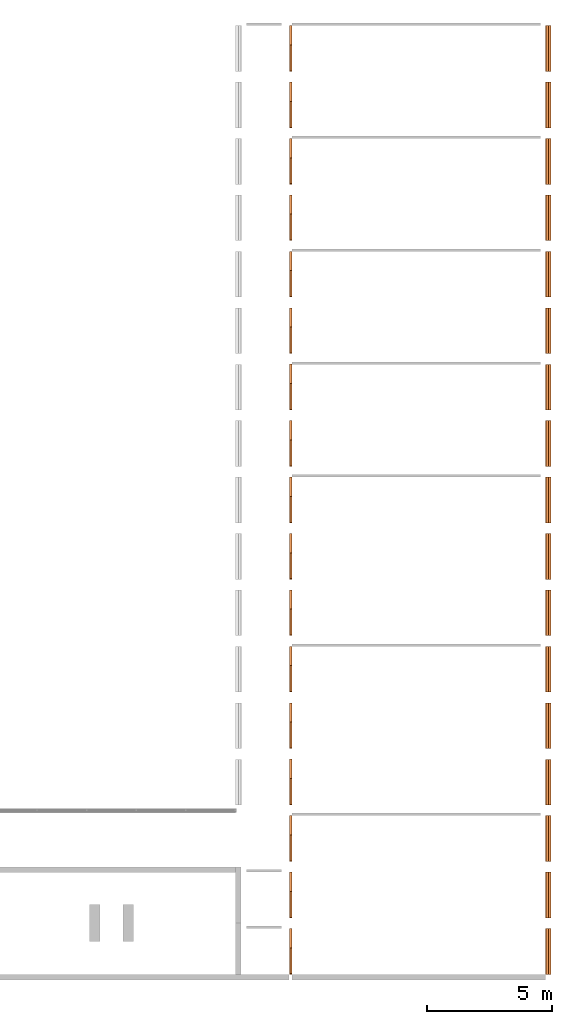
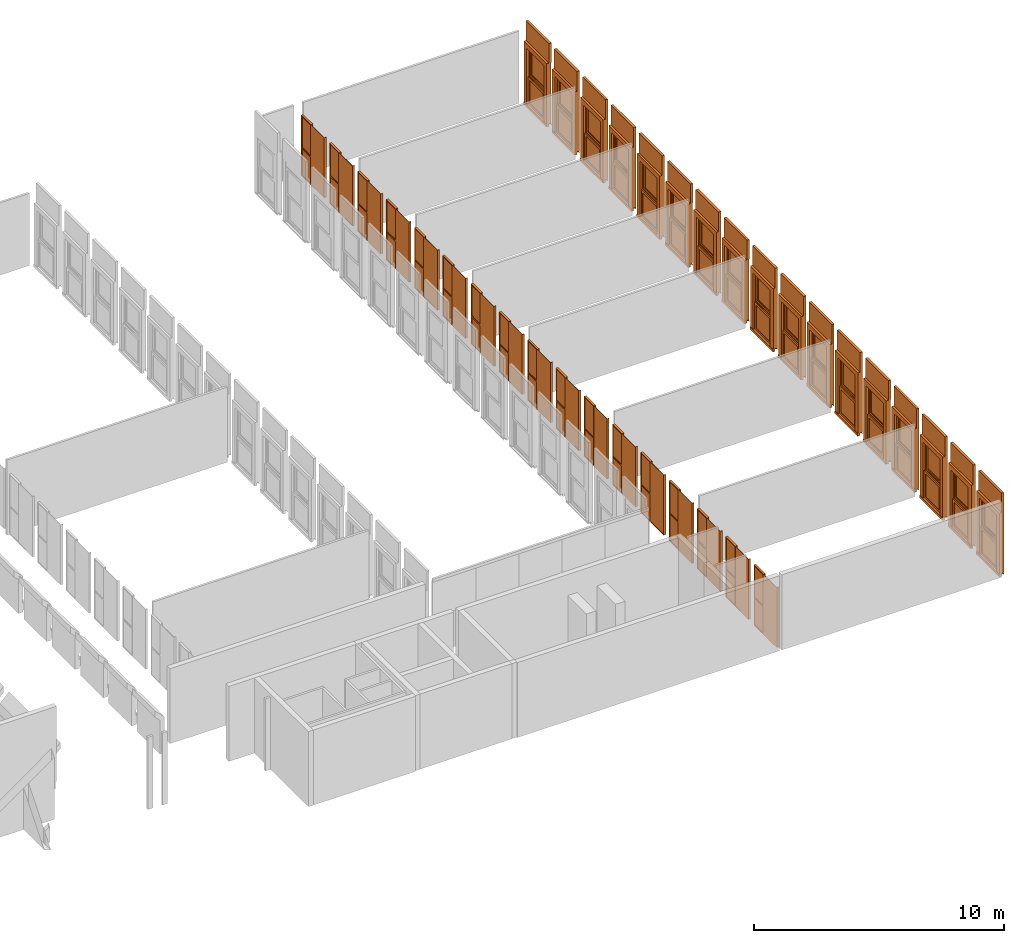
# One storey, part 13 of 13: 34 proxies.
"""IFC2X3 building model written with IfcOpenShell, lengths in millimetres."""

from ifc_helpers import new_model, entity, si_unit, converted_unit, derived_unit, direction, frame, frame_2d, origin, origin_2d_with_axis, place, context, subcontext, project, spatial, polyline, rectangle, outline, extrude, source, transform, mapped, material, material_list, type_object, type_shapes, element, save


model = new_model("IFC2X3")

# Units and contexts
model_context = context("Model", 3, precision=0.01, world=origin(), true_north=direction((6.12303176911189e-17, 1.0)))
body_context = subcontext(model_context, "Body", "Model", "MODEL_VIEW")
ifc_project = project(units=[si_unit("LENGTHUNIT", "METRE", prefix="MILLI"), si_unit("AREAUNIT", "SQUARE_METRE"), si_unit("VOLUMEUNIT", "CUBIC_METRE"), converted_unit("PLANEANGLEUNIT", "DEGREE", entity("IfcRatioMeasure", 0.0174532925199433), si_unit("PLANEANGLEUNIT", "RADIAN"), dimensions=[0, 0, 0, 0, 0, 0, 0]), si_unit("MASSUNIT", "GRAM", prefix="KILO"), derived_unit("MASSDENSITYUNIT", [(si_unit("MASSUNIT", "GRAM", prefix="KILO"), 1), (si_unit("LENGTHUNIT", "METRE"), -3)]), derived_unit("MOMENTOFINERTIAUNIT", [(si_unit("LENGTHUNIT", "METRE"), 4)]), si_unit("TIMEUNIT", "SECOND"), si_unit("FREQUENCYUNIT", "HERTZ"), si_unit("THERMODYNAMICTEMPERATUREUNIT", "DEGREE_CELSIUS"), derived_unit("THERMALTRANSMITTANCEUNIT", [(si_unit("MASSUNIT", "GRAM", prefix="KILO"), 1), (si_unit("THERMODYNAMICTEMPERATUREUNIT", "KELVIN"), -1), (si_unit("TIMEUNIT", "SECOND"), -3)]), derived_unit("VOLUMETRICFLOWRATEUNIT", [(si_unit("LENGTHUNIT", "METRE"), 3), (si_unit("TIMEUNIT", "SECOND"), -1)]), si_unit("ELECTRICCURRENTUNIT", "AMPERE"), si_unit("ELECTRICVOLTAGEUNIT", "VOLT"), si_unit("POWERUNIT", "WATT"), si_unit("FORCEUNIT", "NEWTON", prefix="KILO"), si_unit("ILLUMINANCEUNIT", "LUX"), si_unit("LUMINOUSFLUXUNIT", "LUMEN"), si_unit("LUMINOUSINTENSITYUNIT", "CANDELA"), derived_unit("USERDEFINED", [(si_unit("MASSUNIT", "GRAM", prefix="KILO"), -1), (si_unit("LENGTHUNIT", "METRE"), -2), (si_unit("TIMEUNIT", "SECOND"), 3), (si_unit("LUMINOUSFLUXUNIT", "LUMEN"), 1)]), derived_unit("LINEARVELOCITYUNIT", [(si_unit("LENGTHUNIT", "METRE"), 1), (si_unit("TIMEUNIT", "SECOND"), -1)]), si_unit("PRESSUREUNIT", "PASCAL"), derived_unit("USERDEFINED", [(si_unit("LENGTHUNIT", "METRE"), -2), (si_unit("MASSUNIT", "GRAM", prefix="KILO"), 1), (si_unit("TIMEUNIT", "SECOND"), -2)]), derived_unit("LINEARFORCEUNIT", [(si_unit("MASSUNIT", "GRAM", prefix="KILO"), 1), (si_unit("LENGTHUNIT", "METRE"), 1), (si_unit("TIMEUNIT", "SECOND"), -2), (si_unit("LENGTHUNIT", "METRE"), -1)]), derived_unit("PLANARFORCEUNIT", [(si_unit("MASSUNIT", "GRAM", prefix="KILO"), 1), (si_unit("LENGTHUNIT", "METRE"), 1), (si_unit("TIMEUNIT", "SECOND"), -2), (si_unit("LENGTHUNIT", "METRE"), -2)])], contexts=[model_context])

# Site, building, storey
site_placement = place(None, frame((10627.5135316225, 21939.0796949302, 0.0)))
site = spatial("IfcSite", under=ifc_project, at=site_placement, Name="Default", CompositionType="ELEMENT")
building_placement = place(site_placement, origin())
building = spatial("IfcBuilding", under=site, at=building_placement, CompositionType="ELEMENT")
storey_placement = place(building_placement, frame((0.0, 0.0, 7320.0)))
storey = spatial("IfcBuildingStorey", under=building, at=storey_placement, Name="R+2", CompositionType="ELEMENT", Elevation=7320.0)

# Proxies
ifc_material_1 = material(Name="PVC, Flexible")
ifc_material_2 = material(Name="Glass")
ifc_material_list_1 = material_list([ifc_material_1, ifc_material_2])
building_element_proxy_type_1 = type_object("IfcBuildingElementProxyType", Name="FENETRE.dwg:Fenetre ext 296+95", PredefinedType="NOTDEFINED", material=ifc_material_1)
shared_shape_1 = source(origin(), body_context, "Body", "SweptSolid", [
    extrude(rectangle(XDim=112.500043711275, YDim=1829.99999999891, at=origin_2d_with_axis()), frame((-10.4189092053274, -56.2500218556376, 2960.0), z_axis=(0.0, 0.0, 1.0), x_axis=(0.0, 1.0, 0.0)), (0.0, 0.0, 1.0), 949.999999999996),
    extrude(outline(polyline([(27.5499763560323, -64.4170494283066), (47.5499763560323, -64.4170494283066), (47.5499763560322, -59.4170494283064), (28.7622905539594, -59.4170494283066), (7.54997635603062, 46.6946996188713), (-42.4500236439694, 46.6946996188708), (-42.4500236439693, 32.9446996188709), (-39.9500236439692, 32.9446996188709), (-39.9500236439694, 44.1946996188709), (5.83789859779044, 44.1946996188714), (27.5499763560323, -64.4170494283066)])), frame((-925.418909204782, -66.917049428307, -47.5499763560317), z_axis=(1.0, 0.0, 0.0), x_axis=(0.0, 0.0, 1.0)), (0.0, 0.0, 1.0), 1829.99999999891),
    extrude(outline(polyline([(-54.506636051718, -66.1431859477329), (58.0333803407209, -66.1431859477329), (54.4666704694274, 67.6422744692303), (-57.9934147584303, 64.6440974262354), (-54.506636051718, -66.1431859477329)])), frame((-925.418909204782, 56.2500218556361, -63.833312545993), z_axis=(1.0, 0.0, 0.0), x_axis=(0.0, -0.999644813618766, 0.0266504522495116)), (0.0, 0.0, 1.0), 1829.99999999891),
    extrude(outline(polyline([(-97.0007159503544, -55.5555555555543), (5.85738417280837, -55.5555555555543), (95.357341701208, -55.5555555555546), (95.357341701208, -45.5555555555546), (105.357341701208, -45.5555555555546), (105.357341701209, 174.444444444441), (-106.642659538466, 174.444444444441), (-106.642659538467, -45.5555555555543), (-97.0007159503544, -45.5555555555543), (-97.0007159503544, -55.5555555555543)])), frame((849.025535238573, -5.85738417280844, 0.0), z_axis=(0.0, 0.0, 1.0), x_axis=(0.0, 1.0, 0.0)), (0.0, 0.0, 1.0), 2960.0),
    extrude(rectangle(XDim=1369.99999999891, YDim=199.499957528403, at=origin_2d_with_axis()), frame((-10.4189092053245, -0.250021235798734, 2730.0), z_axis=(0.0, 0.0, 1.0), x_axis=(-1.0, 0.0, 0.0)), (0.0, 0.0, 1.0), 230.000000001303),
    extrude(outline(polyline([(-55.5555555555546, 97.0007159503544), (-55.5555555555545, -5.85738417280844), (-55.5555555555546, -95.357341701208), (-45.5555555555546, -95.3573417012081), (-45.5555555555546, -105.357341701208), (174.444444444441, -105.357341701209), (174.444444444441, 106.642659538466), (-45.5555555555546, 106.642659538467), (-45.5555555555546, 97.0007159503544), (-55.5555555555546, 97.0007159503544)])), frame((-869.863353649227, -5.85738417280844, 0.0), z_axis=(0.0, 0.0, -1.0), x_axis=(1.0, 0.0, 0.0)), (0.0, 0.0, -1.0), 2960.0),
    extrude(rectangle(XDim=1079.99999999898, YDim=1.0, at=origin_2d_with_axis()), frame((-10.4189092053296, 19.5, 130.0), z_axis=(0.0, 0.0, 1.0), x_axis=(-1.0, 0.0, 0.0)), (0.0, 0.0, 1.0), 1120.00000000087),
    extrude(rectangle(XDim=1079.99999999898, YDim=1.0, at=origin_2d_with_axis()), frame((-10.4189092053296, 30.5, 130.0), z_axis=(0.0, 0.0, 1.0), x_axis=(-1.0, 0.0, 0.0)), (0.0, 0.0, 1.0), 1120.00000000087),
    extrude(rectangle(XDim=1079.99999999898, YDim=1.0, at=frame_2d((0.0, 4.21884749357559e-15), x_axis=(1.0, 0.0))), frame((-10.4189092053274, -69.5, 1465.0), z_axis=(0.0, 0.0, 1.0), x_axis=(-1.0, 0.0, 0.0)), (0.0, 0.0, 1.0), 1120.0),
    extrude(rectangle(XDim=1079.99999999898, YDim=0.999999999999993, at=frame_2d((0.0, -8.46545056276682e-15), x_axis=(1.0, 0.0))), frame((-10.4189092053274, -80.5, 1465.0), z_axis=(0.0, 0.0, 1.0), x_axis=(-1.0, 0.0, 0.0)), (0.0, 0.0, 1.0), 1120.00000000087),
    extrude(outline(polyline([(-685.0, -1365.0), (0.0, -1365.0), (685.0, -1365.0), (685.0, 1365.0), (0.0, 1365.0), (-685.0, 1365.0), (-685.0, -1365.0)]), holes=[polyline([(-640.0, -1320.0), (-640.0, -45.0), (0.0, -45.0), (640.0, -45.0), (640.0, -1320.0), (0.0, -1320.0), (-640.0, -1320.0)]), polyline([(-640.0, 40.0), (-640.0, 1315.0), (0.0, 1315.0), (640.0, 1315.0), (640.0, 40.0), (0.0, 40.0), (-640.0, 40.0)])]), frame((-10.4189092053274, -50.0, 1365.0), z_axis=(0.0, 1.0, 0.0), x_axis=(1.0, 0.0, 0.0)), (0.0, 0.0, 1.0), 50.0),
    extrude(outline(polyline([(-655.0, -667.500000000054), (655.0, -667.500000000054), (655.0, 667.500000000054), (-655.0, 667.500000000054), (-655.0, -667.500000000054)]), holes=[polyline([(-540.0, 552.500000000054), (540.0, 552.500000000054), (540.0, -567.500000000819), (-540.0, -567.500000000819), (-540.0, 552.500000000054)])]), frame((-10.4189092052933, 0.0, 697.500000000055), z_axis=(0.0, 1.0, 0.0), x_axis=(-1.0, 0.0, 0.0)), (0.0, 0.0, 1.0), 50.0),
    extrude(outline(polyline([(-655.0, -667.500000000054), (655.0, -667.500000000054), (655.0, 667.500000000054), (-655.0, 667.500000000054), (-655.0, -667.500000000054)]), holes=[polyline([(-540.0, 552.500000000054), (540.0, 552.500000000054), (540.0, -567.500000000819), (-540.0, -567.500000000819), (-540.0, 552.500000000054)])]), frame((-10.4189092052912, -100.0, 2032.50000000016), z_axis=(0.0, 1.0, 0.0), x_axis=(-1.0, 0.0, 0.0)), (0.0, 0.0, 1.0), 50.0),
])
type_shapes(building_element_proxy_type_1, [shared_shape_1])
proxy_1_placement = place(storey_placement, frame((63883.8747193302, 15361.3392142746, 0.0), z_axis=(0.0, 0.0, 1.0), x_axis=(0.0, 1.0, 0.0)))
element("IfcBuildingElementProxy", 1, at=proxy_1_placement, inside=storey, type_object=building_element_proxy_type_1, material=ifc_material_list_1, Name="FENETRE.dwg:Fenetre ext 296+95", ObjectType="FENETRE.dwg:Fenetre ext 296+95", context=body_context, shape_type="MappedRepresentation", body=[
    mapped(shared_shape_1, transform((0.0, 0.0, 0.0), scale=1.0)),
])
ifc_material_list_2 = material_list([ifc_material_1, ifc_material_2])
proxy_2_placement = place(storey_placement, frame((63883.8747193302, 13101.3392142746, 0.0), z_axis=(0.0, 0.0, 1.0), x_axis=(0.0, 1.0, 0.0)))
element("IfcBuildingElementProxy", 2, at=proxy_2_placement, inside=storey, type_object=building_element_proxy_type_1, material=ifc_material_list_2, Name="FENETRE.dwg:Fenetre ext 296+95", ObjectType="FENETRE.dwg:Fenetre ext 296+95", context=body_context, shape_type="MappedRepresentation", body=[
    mapped(shared_shape_1, transform((0.0, 0.0, 0.0), scale=1.0)),
])
ifc_material_list_3 = material_list([ifc_material_1, ifc_material_2])
proxy_3_placement = place(storey_placement, frame((63883.8747193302, 10841.3392142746, 0.0), z_axis=(0.0, 0.0, 1.0), x_axis=(0.0, 1.0, 0.0)))
element("IfcBuildingElementProxy", 3, at=proxy_3_placement, inside=storey, type_object=building_element_proxy_type_1, material=ifc_material_list_3, Name="FENETRE.dwg:Fenetre ext 296+95", ObjectType="FENETRE.dwg:Fenetre ext 296+95", context=body_context, shape_type="MappedRepresentation", body=[
    mapped(shared_shape_1, transform((0.0, 0.0, 0.0), scale=1.0)),
])
ifc_material_list_4 = material_list([ifc_material_1, ifc_material_2])
proxy_4_placement = place(storey_placement, frame((63883.8747193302, 8581.33921427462, 0.0), z_axis=(0.0, 0.0, 1.0), x_axis=(0.0, 1.0, 0.0)))
element("IfcBuildingElementProxy", 4, at=proxy_4_placement, inside=storey, type_object=building_element_proxy_type_1, material=ifc_material_list_4, Name="FENETRE.dwg:Fenetre ext 296+95", ObjectType="FENETRE.dwg:Fenetre ext 296+95", context=body_context, shape_type="MappedRepresentation", body=[
    mapped(shared_shape_1, transform((0.0, 0.0, 0.0), scale=1.0)),
])
ifc_material_list_5 = material_list([ifc_material_1, ifc_material_2])
proxy_5_placement = place(storey_placement, frame((63883.8747193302, 6321.33921427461, 0.0), z_axis=(0.0, 0.0, 1.0), x_axis=(0.0, 1.0, 0.0)))
element("IfcBuildingElementProxy", 5, at=proxy_5_placement, inside=storey, type_object=building_element_proxy_type_1, material=ifc_material_list_5, Name="FENETRE.dwg:Fenetre ext 296+95", ObjectType="FENETRE.dwg:Fenetre ext 296+95", context=body_context, shape_type="MappedRepresentation", body=[
    mapped(shared_shape_1, transform((0.0, 0.0, 0.0), scale=1.0)),
])
ifc_material_list_6 = material_list([ifc_material_1, ifc_material_2])
proxy_6_placement = place(storey_placement, frame((63883.8747193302, 4061.33921427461, 0.0), z_axis=(0.0, 0.0, 1.0), x_axis=(0.0, 1.0, 0.0)))
element("IfcBuildingElementProxy", 6, at=proxy_6_placement, inside=storey, type_object=building_element_proxy_type_1, material=ifc_material_list_6, Name="FENETRE.dwg:Fenetre ext 296+95", ObjectType="FENETRE.dwg:Fenetre ext 296+95", context=body_context, shape_type="MappedRepresentation", body=[
    mapped(shared_shape_1, transform((0.0, 0.0, 0.0), scale=1.0)),
])
ifc_material_list_7 = material_list([ifc_material_1, ifc_material_2])
proxy_7_placement = place(storey_placement, frame((63883.8747193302, 1801.33921427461, 0.0), z_axis=(0.0, 0.0, 1.0), x_axis=(0.0, 1.0, 0.0)))
element("IfcBuildingElementProxy", 7, at=proxy_7_placement, inside=storey, type_object=building_element_proxy_type_1, material=ifc_material_list_7, Name="FENETRE.dwg:Fenetre ext 296+95", ObjectType="FENETRE.dwg:Fenetre ext 296+95", context=body_context, shape_type="MappedRepresentation", body=[
    mapped(shared_shape_1, transform((0.0, 0.0, 0.0), scale=1.0)),
])
ifc_material_list_8 = material_list([ifc_material_1, ifc_material_2])
proxy_8_placement = place(storey_placement, frame((63883.8747193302, -458.660785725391, 0.0), z_axis=(0.0, 0.0, 1.0), x_axis=(0.0, 1.0, 0.0)))
element("IfcBuildingElementProxy", 8, at=proxy_8_placement, inside=storey, type_object=building_element_proxy_type_1, material=ifc_material_list_8, Name="FENETRE.dwg:Fenetre ext 296+95", ObjectType="FENETRE.dwg:Fenetre ext 296+95", context=body_context, shape_type="MappedRepresentation", body=[
    mapped(shared_shape_1, transform((0.0, 0.0, 0.0), scale=1.0)),
])
ifc_material_list_9 = material_list([ifc_material_1, ifc_material_2])
proxy_9_placement = place(storey_placement, frame((63883.8747193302, -2718.66078572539, 0.0), z_axis=(0.0, 0.0, 1.0), x_axis=(0.0, 1.0, 0.0)))
element("IfcBuildingElementProxy", 9, at=proxy_9_placement, inside=storey, type_object=building_element_proxy_type_1, material=ifc_material_list_9, Name="FENETRE.dwg:Fenetre ext 296+95", ObjectType="FENETRE.dwg:Fenetre ext 296+95", context=body_context, shape_type="MappedRepresentation", body=[
    mapped(shared_shape_1, transform((0.0, 0.0, 0.0), scale=1.0)),
])
ifc_material_list_10 = material_list([ifc_material_1, ifc_material_2])
proxy_10_placement = place(storey_placement, frame((63883.8747193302, -4978.66078572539, 0.0), z_axis=(0.0, 0.0, 1.0), x_axis=(0.0, 1.0, 0.0)))
element("IfcBuildingElementProxy", 10, at=proxy_10_placement, inside=storey, type_object=building_element_proxy_type_1, material=ifc_material_list_10, Name="FENETRE.dwg:Fenetre ext 296+95", ObjectType="FENETRE.dwg:Fenetre ext 296+95", context=body_context, shape_type="MappedRepresentation", body=[
    mapped(shared_shape_1, transform((0.0, 0.0, 0.0), scale=1.0)),
])
ifc_material_list_11 = material_list([ifc_material_1, ifc_material_2])
proxy_11_placement = place(storey_placement, frame((63883.8747193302, -7238.6607857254, 0.0), z_axis=(0.0, 0.0, 1.0), x_axis=(0.0, 1.0, 0.0)))
element("IfcBuildingElementProxy", 11, at=proxy_11_placement, inside=storey, type_object=building_element_proxy_type_1, material=ifc_material_list_11, Name="FENETRE.dwg:Fenetre ext 296+95", ObjectType="FENETRE.dwg:Fenetre ext 296+95", context=body_context, shape_type="MappedRepresentation", body=[
    mapped(shared_shape_1, transform((0.0, 0.0, 0.0), scale=1.0)),
])
ifc_material_list_12 = material_list([ifc_material_1, ifc_material_2])
proxy_12_placement = place(storey_placement, frame((63883.8747193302, -9498.6607857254, 0.0), z_axis=(0.0, 0.0, 1.0), x_axis=(0.0, 1.0, 0.0)))
element("IfcBuildingElementProxy", 12, at=proxy_12_placement, inside=storey, type_object=building_element_proxy_type_1, material=ifc_material_list_12, Name="FENETRE.dwg:Fenetre ext 296+95", ObjectType="FENETRE.dwg:Fenetre ext 296+95", context=body_context, shape_type="MappedRepresentation", body=[
    mapped(shared_shape_1, transform((0.0, 0.0, 0.0), scale=1.0)),
])
ifc_material_list_13 = material_list([ifc_material_1, ifc_material_2])
proxy_13_placement = place(storey_placement, frame((63883.8747193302, -11758.6607857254, 0.0), z_axis=(0.0, 0.0, 1.0), x_axis=(0.0, 1.0, 0.0)))
element("IfcBuildingElementProxy", 13, at=proxy_13_placement, inside=storey, type_object=building_element_proxy_type_1, material=ifc_material_list_13, Name="FENETRE.dwg:Fenetre ext 296+95", ObjectType="FENETRE.dwg:Fenetre ext 296+95", context=body_context, shape_type="MappedRepresentation", body=[
    mapped(shared_shape_1, transform((0.0, 0.0, 0.0), scale=1.0)),
])
ifc_material_list_14 = material_list([ifc_material_1, ifc_material_2])
proxy_14_placement = place(storey_placement, frame((63883.8747193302, -14018.6607857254, 0.0), z_axis=(0.0, 0.0, 1.0), x_axis=(0.0, 1.0, 0.0)))
element("IfcBuildingElementProxy", 14, at=proxy_14_placement, inside=storey, type_object=building_element_proxy_type_1, material=ifc_material_list_14, Name="FENETRE.dwg:Fenetre ext 296+95", ObjectType="FENETRE.dwg:Fenetre ext 296+95", context=body_context, shape_type="MappedRepresentation", body=[
    mapped(shared_shape_1, transform((0.0, 0.0, 0.0), scale=1.0)),
])
ifc_material_list_15 = material_list([ifc_material_1, ifc_material_2])
proxy_15_placement = place(storey_placement, frame((63883.8747193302, -16278.6607857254, 0.0), z_axis=(0.0, 0.0, 1.0), x_axis=(0.0, 1.0, 0.0)))
element("IfcBuildingElementProxy", 15, at=proxy_15_placement, inside=storey, type_object=building_element_proxy_type_1, material=ifc_material_list_15, Name="FENETRE.dwg:Fenetre ext 296+95", ObjectType="FENETRE.dwg:Fenetre ext 296+95", context=body_context, shape_type="MappedRepresentation", body=[
    mapped(shared_shape_1, transform((0.0, 0.0, 0.0), scale=1.0)),
])
ifc_material_list_16 = material_list([ifc_material_1, ifc_material_2])
proxy_16_placement = place(storey_placement, frame((63883.8747193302, -18538.6607857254, 0.0), z_axis=(0.0, 0.0, 1.0), x_axis=(0.0, 1.0, 0.0)))
element("IfcBuildingElementProxy", 16, at=proxy_16_placement, inside=storey, type_object=building_element_proxy_type_1, material=ifc_material_list_16, Name="FENETRE.dwg:Fenetre ext 296+95", ObjectType="FENETRE.dwg:Fenetre ext 296+95", context=body_context, shape_type="MappedRepresentation", body=[
    mapped(shared_shape_1, transform((0.0, 0.0, 0.0), scale=1.0)),
])
ifc_material_list_17 = material_list([ifc_material_1, ifc_material_2])
proxy_17_placement = place(storey_placement, frame((63883.8747193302, -20798.6607857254, 0.0), z_axis=(0.0, 0.0, 1.0), x_axis=(0.0, 1.0, 0.0)))
element("IfcBuildingElementProxy", 17, at=proxy_17_placement, inside=storey, type_object=building_element_proxy_type_1, material=ifc_material_list_17, Name="FENETRE.dwg:Fenetre ext 296+95", ObjectType="FENETRE.dwg:Fenetre ext 296+95", context=body_context, shape_type="MappedRepresentation", body=[
    mapped(shared_shape_1, transform((0.0, 0.0, 0.0), scale=1.0)),
])
ifc_material_3 = material(Name="Plywood, Sheathing")
ifc_material_list_18 = material_list([ifc_material_3, ifc_material_2])
building_element_proxy_type_2 = type_object("IfcBuildingElementProxyType", Name="Porte noire:Porte noire", PredefinedType="NOTDEFINED", material=ifc_material_3)
shared_shape_2 = source(origin(), body_context, "Body", "SweptSolid", [
    extrude(rectangle(XDim=23.0000000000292, YDim=100.0, at=frame_2d((-1.35891298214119e-13, 0.0), x_axis=(1.0, 0.0))), frame((-950.918997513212, 50.0, 8.73189890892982), z_axis=(0.0, 0.0, 1.0), x_axis=(-1.0, 0.0, 0.0)), (0.0, 0.0, 1.0), 2933.34951039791),
    extrude(rectangle(XDim=1038.0, YDim=19.0, at=frame_2d((0.0, 7.99360577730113e-15), x_axis=(1.0, 0.0))), frame((-420.418997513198, 87.5, 43.7318989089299), z_axis=(0.0, 0.0, 1.0), x_axis=(-1.0, 0.0, 0.0)), (0.0, 0.0, 1.0), 2898.5),
    extrude(rectangle(XDim=1775.0, YDim=100.0, at=origin_2d_with_axis()), frame((-51.9189975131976, 50.0, 8.73189890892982), z_axis=(0.0, 0.0, 1.0), x_axis=(-1.0, 0.0, 0.0)), (0.0, 0.0, 1.0), 35.0000000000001),
    extrude(rectangle(XDim=35.0000000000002, YDim=100.0, at=origin_2d_with_axis()), frame((853.081002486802, 50.0, 8.73189890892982), z_axis=(0.0, 0.0, 1.0), x_axis=(-1.0, 0.0, 0.0)), (0.0, 0.0, 1.0), 2898.5),
    extrude(rectangle(XDim=740.0, YDim=100.0, at=origin_2d_with_axis()), frame((500.581002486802, 50.0, 2907.23189890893), z_axis=(0.0, 0.0, 1.0), x_axis=(-1.0, 0.0, 0.0)), (0.0, 0.0, 1.0), 35.0000000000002),
    extrude(rectangle(XDim=31.9999999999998, YDim=100.0, at=origin_2d_with_axis()), frame((114.581002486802, 50.0, 43.7318989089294), z_axis=(0.0, 0.0, 1.0), x_axis=(-1.0, 0.0, 0.0)), (0.0, 0.0, 1.0), 2898.5),
    extrude(rectangle(XDim=705.0, YDim=100.0, at=origin_2d_with_axis()), frame((483.081002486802, 50.0, 1343.73189890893), z_axis=(0.0, 0.0, 1.0), x_axis=(-1.0, 0.0, 0.0)), (0.0, 0.0, 1.0), 55.0),
    extrude(outline(polyline([(-352.5, -650.0), (352.5, -650.0), (352.5, 650.0), (-352.5, 650.0), (-352.5, -650.0)]), holes=[polyline([(342.5, 640.0), (342.5, -640.0), (-342.5, -640.0), (-342.5, 640.0), (342.5, 640.0)])]), frame((483.081002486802, 10.0, 693.73189890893), z_axis=(0.0, 1.0, 0.0), x_axis=(1.0, 0.0, 0.0)), (0.0, 0.0, 1.0), 70.0),
    extrude(outline(polyline([(-754.25, -352.5), (754.25, -352.5), (754.25, 352.5), (-754.25, 352.5), (-754.25, -352.5)]), holes=[polyline([(744.25, 342.5), (744.25, -342.5), (-744.25, -342.5), (-744.25, 342.5), (744.25, 342.5)])]), frame((483.081002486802, 10.0, 2152.98189890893), z_axis=(0.0, 1.0, 0.0), x_axis=(0.0, 0.0, 1.0)), (0.0, 0.0, 1.0), 70.0),
    extrude(outline(polyline([(-640.0, -342.5), (640.0, -342.5), (640.0, 342.5), (-640.0, 342.5), (-640.0, -342.5)]), holes=[polyline([(630.0, 332.5), (630.0, -332.5), (-630.0, -332.5), (-630.0, 332.5), (630.0, 332.5)])]), frame((483.081002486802, 77.0, 693.731898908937), z_axis=(0.0, 1.0, 0.0), x_axis=(0.0, 0.0, 1.0)), (0.0, 0.0, 1.0), 3.99999999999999),
    extrude(outline(polyline([(-744.25, -342.5), (744.25, -342.5), (744.25, 342.5), (-744.25, 342.5), (-744.25, -342.5)]), holes=[polyline([(734.25, 332.5), (734.25, -332.5), (-734.25, -332.5), (-734.25, 332.5), (734.25, 332.5)])]), frame((483.081002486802, 77.0, 2152.98189890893), z_axis=(0.0, 1.0, 0.0), x_axis=(0.0, 0.0, 1.0)), (0.0, 0.0, 1.0), 3.99999999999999),
    extrude(outline(polyline([(-640.0, -342.5), (640.0, -342.5), (640.0, 342.5), (-640.0, 342.5), (-640.0, -342.5)]), holes=[polyline([(630.0, 332.5), (630.0, -332.5), (-630.0, -332.5), (-630.0, 332.5), (630.0, 332.5)])]), frame((483.081002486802, 10.0, 693.782575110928), z_axis=(0.0, 1.0, 0.0), x_axis=(0.0, 0.0, 1.0)), (0.0, 0.0, 1.0), 5.0),
    extrude(outline(polyline([(-744.25, -342.5), (744.25, -342.5), (744.25, 342.5), (-744.25, 342.5), (-744.25, -342.5)]), holes=[polyline([(734.25, 332.5), (734.25, -332.5), (-734.25, -332.5), (-734.25, 332.5), (734.25, 332.5)])]), frame((483.081002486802, 10.0, 2153.03257511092), z_axis=(0.0, 1.0, 0.0), x_axis=(0.0, 0.0, 1.0)), (0.0, 0.0, 1.0), 5.0),
    extrude(rectangle(XDim=665.0, YDim=2.0, at=frame_2d((0.0, 8.43769498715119e-15), x_axis=(1.0, 0.0))), frame((483.081002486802, 79.0, 1418.73189890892), z_axis=(0.0, 0.0, 1.0), x_axis=(-1.0, 0.0, 0.0)), (0.0, 0.0, 1.0), 1468.50000000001),
    extrude(rectangle(XDim=665.0, YDim=2.0, at=frame_2d((0.0, 8.43769498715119e-15), x_axis=(1.0, 0.0))), frame((483.081002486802, 79.0, 63.7318989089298), z_axis=(0.0, 0.0, 1.0), x_axis=(-1.0, 0.0, 0.0)), (0.0, 0.0, 1.0), 1260.0),
    extrude(rectangle(XDim=665.0, YDim=2.0, at=frame_2d((0.0, 1.0547118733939e-15), x_axis=(1.0, 0.0))), frame((483.081002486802, 13.0, 1418.78257511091), z_axis=(0.0, 0.0, 1.0), x_axis=(-1.0, 0.0, 0.0)), (0.0, 0.0, 1.0), 1468.50000000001),
    extrude(rectangle(XDim=665.0, YDim=2.0, at=frame_2d((0.0, 1.0547118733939e-15), x_axis=(1.0, 0.0))), frame((483.081002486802, 13.0, 63.7825751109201), z_axis=(0.0, 0.0, 1.0), x_axis=(-1.0, 0.0, 0.0)), (0.0, 0.0, 1.0), 1260.0),
])
type_shapes(building_element_proxy_type_2, [shared_shape_2])
proxy_18_placement = place(storey_placement, frame((53617.1264727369, -20762.660697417, 0.0), z_axis=(0.0, 0.0, 1.0), x_axis=(0.0, 1.0, 0.0)))
element("IfcBuildingElementProxy", 18, at=proxy_18_placement, inside=storey, type_object=building_element_proxy_type_2, material=ifc_material_list_18, Name="Porte noire:Porte noire", ObjectType="Porte noire:Porte noire", context=body_context, shape_type="MappedRepresentation", body=[
    mapped(shared_shape_2, transform((0.0, 0.0, 0.0), scale=1.0)),
])
ifc_material_list_19 = material_list([ifc_material_3, ifc_material_2])
proxy_19_placement = place(storey_placement, frame((53617.1264727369, -18502.660697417, 0.0), z_axis=(0.0, 0.0, 1.0), x_axis=(0.0, 1.0, 0.0)))
element("IfcBuildingElementProxy", 19, at=proxy_19_placement, inside=storey, type_object=building_element_proxy_type_2, material=ifc_material_list_19, Name="Porte noire:Porte noire", ObjectType="Porte noire:Porte noire", context=body_context, shape_type="MappedRepresentation", body=[
    mapped(shared_shape_2, transform((0.0, 0.0, 0.0), scale=1.0)),
])
ifc_material_list_20 = material_list([ifc_material_3, ifc_material_2])
proxy_20_placement = place(storey_placement, frame((53617.1264727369, -16242.660697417, 0.0), z_axis=(0.0, 0.0, 1.0), x_axis=(0.0, 1.0, 0.0)))
element("IfcBuildingElementProxy", 20, at=proxy_20_placement, inside=storey, type_object=building_element_proxy_type_2, material=ifc_material_list_20, Name="Porte noire:Porte noire", ObjectType="Porte noire:Porte noire", context=body_context, shape_type="MappedRepresentation", body=[
    mapped(shared_shape_2, transform((0.0, 0.0, 0.0), scale=1.0)),
])
ifc_material_list_21 = material_list([ifc_material_3, ifc_material_2])
proxy_21_placement = place(storey_placement, frame((53617.1264727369, -13982.660697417, 0.0), z_axis=(0.0, 0.0, 1.0), x_axis=(0.0, 1.0, 0.0)))
element("IfcBuildingElementProxy", 21, at=proxy_21_placement, inside=storey, type_object=building_element_proxy_type_2, material=ifc_material_list_21, Name="Porte noire:Porte noire", ObjectType="Porte noire:Porte noire", context=body_context, shape_type="MappedRepresentation", body=[
    mapped(shared_shape_2, transform((0.0, 0.0, 0.0), scale=1.0)),
])
ifc_material_list_22 = material_list([ifc_material_3, ifc_material_2])
proxy_22_placement = place(storey_placement, frame((53617.1264727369, -11722.660697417, 0.0), z_axis=(0.0, 0.0, 1.0), x_axis=(0.0, 1.0, 0.0)))
element("IfcBuildingElementProxy", 22, at=proxy_22_placement, inside=storey, type_object=building_element_proxy_type_2, material=ifc_material_list_22, Name="Porte noire:Porte noire", ObjectType="Porte noire:Porte noire", context=body_context, shape_type="MappedRepresentation", body=[
    mapped(shared_shape_2, transform((0.0, 0.0, 0.0), scale=1.0)),
])
ifc_material_list_23 = material_list([ifc_material_3, ifc_material_2])
proxy_23_placement = place(storey_placement, frame((53617.1264727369, -9462.660697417, 0.0), z_axis=(0.0, 0.0, 1.0), x_axis=(0.0, 1.0, 0.0)))
element("IfcBuildingElementProxy", 23, at=proxy_23_placement, inside=storey, type_object=building_element_proxy_type_2, material=ifc_material_list_23, Name="Porte noire:Porte noire", ObjectType="Porte noire:Porte noire", context=body_context, shape_type="MappedRepresentation", body=[
    mapped(shared_shape_2, transform((0.0, 0.0, 0.0), scale=1.0)),
])
ifc_material_list_24 = material_list([ifc_material_3, ifc_material_2])
proxy_24_placement = place(storey_placement, frame((53617.1264727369, -7202.660697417, 0.0), z_axis=(0.0, 0.0, 1.0), x_axis=(0.0, 1.0, 0.0)))
element("IfcBuildingElementProxy", 24, at=proxy_24_placement, inside=storey, type_object=building_element_proxy_type_2, material=ifc_material_list_24, Name="Porte noire:Porte noire", ObjectType="Porte noire:Porte noire", context=body_context, shape_type="MappedRepresentation", body=[
    mapped(shared_shape_2, transform((0.0, 0.0, 0.0), scale=1.0)),
])
ifc_material_list_25 = material_list([ifc_material_3, ifc_material_2])
proxy_25_placement = place(storey_placement, frame((53617.1264727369, -4942.660697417, 0.0), z_axis=(0.0, 0.0, 1.0), x_axis=(0.0, 1.0, 0.0)))
element("IfcBuildingElementProxy", 25, at=proxy_25_placement, inside=storey, type_object=building_element_proxy_type_2, material=ifc_material_list_25, Name="Porte noire:Porte noire", ObjectType="Porte noire:Porte noire", context=body_context, shape_type="MappedRepresentation", body=[
    mapped(shared_shape_2, transform((0.0, 0.0, 0.0), scale=1.0)),
])
ifc_material_list_26 = material_list([ifc_material_3, ifc_material_2])
proxy_26_placement = place(storey_placement, frame((53617.1264727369, -2682.660697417, 0.0), z_axis=(0.0, 0.0, 1.0), x_axis=(0.0, 1.0, 0.0)))
element("IfcBuildingElementProxy", 26, at=proxy_26_placement, inside=storey, type_object=building_element_proxy_type_2, material=ifc_material_list_26, Name="Porte noire:Porte noire", ObjectType="Porte noire:Porte noire", context=body_context, shape_type="MappedRepresentation", body=[
    mapped(shared_shape_2, transform((0.0, 0.0, 0.0), scale=1.0)),
])
ifc_material_list_27 = material_list([ifc_material_3, ifc_material_2])
proxy_27_placement = place(storey_placement, frame((53617.1264727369, -422.660697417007, 0.0), z_axis=(0.0, 0.0, 1.0), x_axis=(0.0, 1.0, 0.0)))
element("IfcBuildingElementProxy", 27, at=proxy_27_placement, inside=storey, type_object=building_element_proxy_type_2, material=ifc_material_list_27, Name="Porte noire:Porte noire", ObjectType="Porte noire:Porte noire", context=body_context, shape_type="MappedRepresentation", body=[
    mapped(shared_shape_2, transform((0.0, 0.0, 0.0), scale=1.0)),
])
ifc_material_list_28 = material_list([ifc_material_3, ifc_material_2])
proxy_28_placement = place(storey_placement, frame((53617.1264727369, 1837.33930258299, 0.0), z_axis=(0.0, 0.0, 1.0), x_axis=(0.0, 1.0, 0.0)))
element("IfcBuildingElementProxy", 28, at=proxy_28_placement, inside=storey, type_object=building_element_proxy_type_2, material=ifc_material_list_28, Name="Porte noire:Porte noire", ObjectType="Porte noire:Porte noire", context=body_context, shape_type="MappedRepresentation", body=[
    mapped(shared_shape_2, transform((0.0, 0.0, 0.0), scale=1.0)),
])
ifc_material_list_29 = material_list([ifc_material_3, ifc_material_2])
proxy_29_placement = place(storey_placement, frame((53617.1264727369, 4097.33930258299, 0.0), z_axis=(0.0, 0.0, 1.0), x_axis=(0.0, 1.0, 0.0)))
element("IfcBuildingElementProxy", 29, at=proxy_29_placement, inside=storey, type_object=building_element_proxy_type_2, material=ifc_material_list_29, Name="Porte noire:Porte noire", ObjectType="Porte noire:Porte noire", context=body_context, shape_type="MappedRepresentation", body=[
    mapped(shared_shape_2, transform((0.0, 0.0, 0.0), scale=1.0)),
])
ifc_material_list_30 = material_list([ifc_material_3, ifc_material_2])
proxy_30_placement = place(storey_placement, frame((53617.1264727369, 6357.33930258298, 0.0), z_axis=(0.0, 0.0, 1.0), x_axis=(0.0, 1.0, 0.0)))
element("IfcBuildingElementProxy", 30, at=proxy_30_placement, inside=storey, type_object=building_element_proxy_type_2, material=ifc_material_list_30, Name="Porte noire:Porte noire", ObjectType="Porte noire:Porte noire", context=body_context, shape_type="MappedRepresentation", body=[
    mapped(shared_shape_2, transform((0.0, 0.0, 0.0), scale=1.0)),
])
ifc_material_list_31 = material_list([ifc_material_3, ifc_material_2])
proxy_31_placement = place(storey_placement, frame((53617.1264727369, 8617.33930258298, 0.0), z_axis=(0.0, 0.0, 1.0), x_axis=(0.0, 1.0, 0.0)))
element("IfcBuildingElementProxy", 31, at=proxy_31_placement, inside=storey, type_object=building_element_proxy_type_2, material=ifc_material_list_31, Name="Porte noire:Porte noire", ObjectType="Porte noire:Porte noire", context=body_context, shape_type="MappedRepresentation", body=[
    mapped(shared_shape_2, transform((0.0, 0.0, 0.0), scale=1.0)),
])
ifc_material_list_32 = material_list([ifc_material_3, ifc_material_2])
proxy_32_placement = place(storey_placement, frame((53617.1264727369, 10877.339302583, 0.0), z_axis=(0.0, 0.0, 1.0), x_axis=(0.0, 1.0, 0.0)))
element("IfcBuildingElementProxy", 32, at=proxy_32_placement, inside=storey, type_object=building_element_proxy_type_2, material=ifc_material_list_32, Name="Porte noire:Porte noire", ObjectType="Porte noire:Porte noire", context=body_context, shape_type="MappedRepresentation", body=[
    mapped(shared_shape_2, transform((0.0, 0.0, 0.0), scale=1.0)),
])
ifc_material_list_33 = material_list([ifc_material_3, ifc_material_2])
proxy_33_placement = place(storey_placement, frame((53617.1264727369, 13137.339302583, 0.0), z_axis=(0.0, 0.0, 1.0), x_axis=(0.0, 1.0, 0.0)))
element("IfcBuildingElementProxy", 33, at=proxy_33_placement, inside=storey, type_object=building_element_proxy_type_2, material=ifc_material_list_33, Name="Porte noire:Porte noire", ObjectType="Porte noire:Porte noire", context=body_context, shape_type="MappedRepresentation", body=[
    mapped(shared_shape_2, transform((0.0, 0.0, 0.0), scale=1.0)),
])
ifc_material_list_34 = material_list([ifc_material_3, ifc_material_2])
proxy_34_placement = place(storey_placement, frame((53617.1264727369, 15397.339302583, 0.0), z_axis=(0.0, 0.0, 1.0), x_axis=(0.0, 1.0, 0.0)))
element("IfcBuildingElementProxy", 34, at=proxy_34_placement, inside=storey, type_object=building_element_proxy_type_2, material=ifc_material_list_34, Name="Porte noire:Porte noire", ObjectType="Porte noire:Porte noire", context=body_context, shape_type="MappedRepresentation", body=[
    mapped(shared_shape_2, transform((0.0, 0.0, 0.0), scale=1.0)),
])

save(model, "model.ifc")
